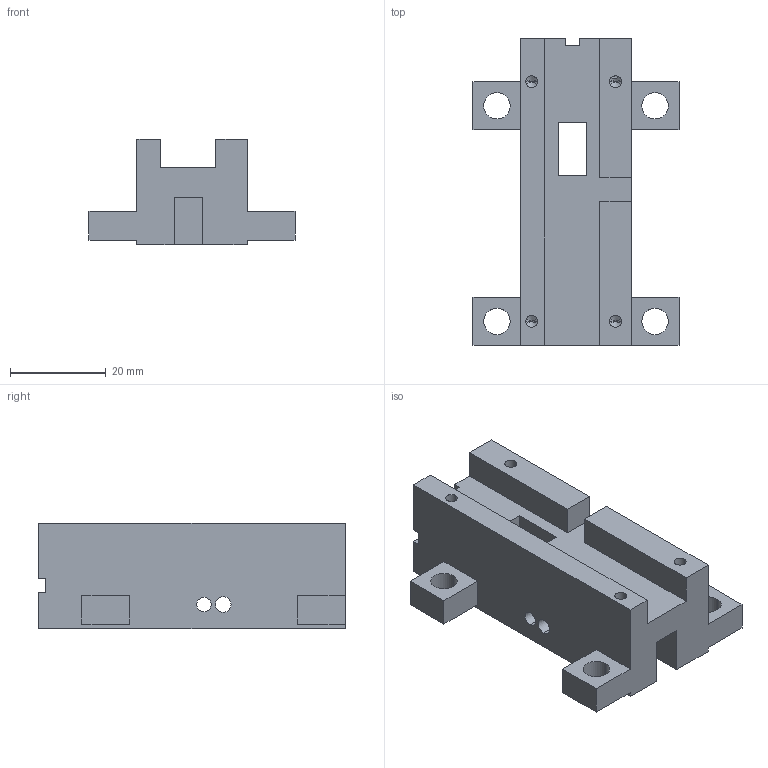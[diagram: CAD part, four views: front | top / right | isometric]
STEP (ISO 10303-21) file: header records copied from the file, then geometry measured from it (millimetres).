
FILE_DESCRIPTION (( 'STEP AP203' ), '1' );
FILE_NAME ('湔蹋釱.step', '2026-06-30T08:42:44', ( '' ), ( '' ), 'SwSTEP 2.0', 'SolidWorks 2024', '' );
FILE_SCHEMA (( 'CONFIG_CONTROL_DESIGN' ));
Length unit declared in the file: millimetre
Products named in the file (1): 存料座
Bounding box: 43 x 64 x 22.1 mm (x, y, z)
Volume: 25769.3 mm3; surface area: 10840 mm2
Topology: 1 solids, 1 shells, 100 faces, 285 edges, 177 vertices
Faces by surface type: plane 50, cylinder 34, cone 16
Entity records: 3275 total; most frequent: CARTESIAN_POINT 593, ORIENTED_EDGE 538, DIRECTION 532, EDGE_CURVE 269, VECTOR 188, LINE 188, VERTEX_POINT 177, AXIS2_PLACEMENT_3D 172
